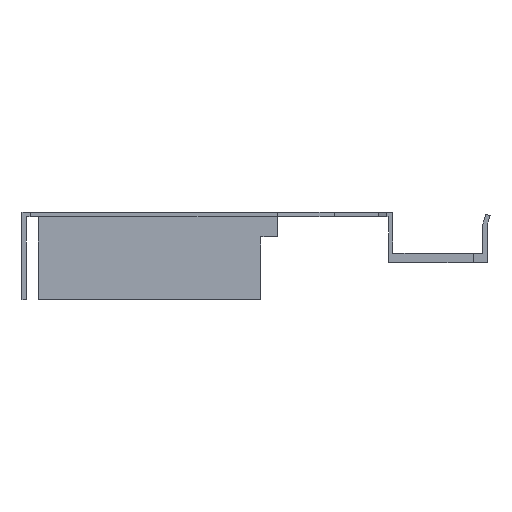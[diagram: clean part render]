
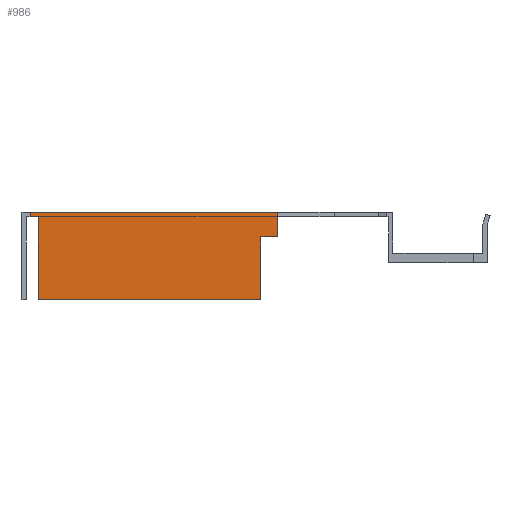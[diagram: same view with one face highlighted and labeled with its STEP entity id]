
A CAD part, left-side view. The second image highlights one B-rep face of the part: STEP entity #986.
In plain terms, the highlighted planar face has unit normal (-1, 0, 0).
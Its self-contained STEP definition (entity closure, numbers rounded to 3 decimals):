
#67 = FACE_OUTER_BOUND ( 'NONE', #190, .T. ) ;
#110 = VERTEX_POINT ( 'NONE', #1087 ) ;
#135 = VERTEX_POINT ( 'NONE', #1108 ) ;
#190 = EDGE_LOOP ( 'NONE', ( #919, #918, #917, #916, #928, #929, #930, #899 ) ) ;
#265 = LINE ( 'NONE', #1209, #270 ) ;
#270 = VECTOR ( 'NONE', #1212, 1000. ) ;
#367 = LINE ( 'NONE', #1326, #368 ) ;
#368 = VECTOR ( 'NONE', #1327, 1000. ) ;
#420 = LINE ( 'NONE', #1389, #422 ) ;
#422 = VECTOR ( 'NONE', #1390, 1000. ) ;
#452 = LINE ( 'NONE', #1417, #453 ) ;
#453 = VECTOR ( 'NONE', #1418, 1000. ) ;
#454 = LINE ( 'NONE', #1419, #455 ) ;
#455 = VECTOR ( 'NONE', #1420, 1000. ) ;
#458 = LINE ( 'NONE', #1423, #459 ) ;
#459 = VECTOR ( 'NONE', #1424, 1000. ) ;
#460 = LINE ( 'NONE', #1425, #461 ) ;
#461 = VECTOR ( 'NONE', #1426, 1000. ) ;
#462 = LINE ( 'NONE', #1427, #463 ) ;
#463 = VECTOR ( 'NONE', #1428, 1000. ) ;
#627 = EDGE_CURVE ( 'NONE', #135, #110, #265, .T. ) ;
#680 = EDGE_CURVE ( 'NONE', #1048, #1021, #367, .T. ) ;
#710 = EDGE_CURVE ( 'NONE', #1026, #1057, #420, .T. ) ;
#724 = EDGE_CURVE ( 'NONE', #1040, #1026, #452, .T. ) ;
#725 = EDGE_CURVE ( 'NONE', #110, #1036, #454, .T. ) ;
#727 = EDGE_CURVE ( 'NONE', #1048, #1040, #458, .T. ) ;
#728 = EDGE_CURVE ( 'NONE', #1021, #135, #460, .T. ) ;
#729 = EDGE_CURVE ( 'NONE', #1057, #1036, #462, .T. ) ;
#899 = ORIENTED_EDGE ( 'NONE', *, *, #627, .F. ) ;
#916 = ORIENTED_EDGE ( 'NONE', *, *, #724, .T. ) ;
#917 = ORIENTED_EDGE ( 'NONE', *, *, #727, .T. ) ;
#918 = ORIENTED_EDGE ( 'NONE', *, *, #680, .F. ) ;
#919 = ORIENTED_EDGE ( 'NONE', *, *, #728, .F. ) ;
#928 = ORIENTED_EDGE ( 'NONE', *, *, #710, .T. ) ;
#929 = ORIENTED_EDGE ( 'NONE', *, *, #729, .T. ) ;
#930 = ORIENTED_EDGE ( 'NONE', *, *, #725, .F. ) ;
#986 = ADVANCED_FACE ( 'NONE', ( #67 ), #1564, .T. ) ;
#1003 = AXIS2_PLACEMENT_3D ( 'NONE', #1567, #1573, #1574 ) ;
#1021 = VERTEX_POINT ( 'NONE', #1614 ) ;
#1026 = VERTEX_POINT ( 'NONE', #1620 ) ;
#1036 = VERTEX_POINT ( 'NONE', #1629 ) ;
#1040 = VERTEX_POINT ( 'NONE', #1633 ) ;
#1048 = VERTEX_POINT ( 'NONE', #1641 ) ;
#1057 = VERTEX_POINT ( 'NONE', #1650 ) ;
#1087 = CARTESIAN_POINT ( 'NONE',  ( -767., 21.2, 7.5 ) ) ;
#1108 = CARTESIAN_POINT ( 'NONE',  ( -767., 66.5, 7.5 ) ) ;
#1209 = CARTESIAN_POINT ( 'NONE',  ( -767., 0., 7.5 ) ) ;
#1212 = DIRECTION ( 'NONE',  ( 0., -1., 0. ) ) ;
#1326 = CARTESIAN_POINT ( 'NONE',  ( -767., 0.8, 6.7 ) ) ;
#1327 = DIRECTION ( 'NONE',  ( 0., 1., 0. ) ) ;
#1389 = CARTESIAN_POINT ( 'NONE',  ( -767., 24.2, -8.5 ) ) ;
#1390 = DIRECTION ( 'NONE',  ( 0., 0., 1. ) ) ;
#1417 = CARTESIAN_POINT ( 'NONE',  ( -767., 65., -8.5 ) ) ;
#1418 = DIRECTION ( 'NONE',  ( 0., -1., 0. ) ) ;
#1419 = CARTESIAN_POINT ( 'NONE',  ( -767., 21.2, 0. ) ) ;
#1420 = DIRECTION ( 'NONE',  ( 0., 0., -1. ) ) ;
#1423 = CARTESIAN_POINT ( 'NONE',  ( -767., 65., 7.5 ) ) ;
#1424 = DIRECTION ( 'NONE',  ( 0., 0., -1. ) ) ;
#1425 = CARTESIAN_POINT ( 'NONE',  ( -767., 66.5, 6.7 ) ) ;
#1426 = DIRECTION ( 'NONE',  ( 0., 0., 1. ) ) ;
#1427 = CARTESIAN_POINT ( 'NONE',  ( -767., 24.2, 3. ) ) ;
#1428 = DIRECTION ( 'NONE',  ( 0., -1., 0. ) ) ;
#1564 = PLANE ( 'NONE',  #1003 ) ;
#1567 = CARTESIAN_POINT ( 'NONE',  ( -767., -16.5, 0. ) ) ;
#1573 = DIRECTION ( 'NONE',  ( -1., 0., 0. ) ) ;
#1574 = DIRECTION ( 'NONE',  ( 0., 0., 1. ) ) ;
#1614 = CARTESIAN_POINT ( 'NONE',  ( -767., 66.5, 6.7 ) ) ;
#1620 = CARTESIAN_POINT ( 'NONE',  ( -767., 24.2, -8.5 ) ) ;
#1629 = CARTESIAN_POINT ( 'NONE',  ( -767., 21.2, 3. ) ) ;
#1633 = CARTESIAN_POINT ( 'NONE',  ( -767., 65., -8.5 ) ) ;
#1641 = CARTESIAN_POINT ( 'NONE',  ( -767., 65., 6.7 ) ) ;
#1650 = CARTESIAN_POINT ( 'NONE',  ( -767., 24.2, 3. ) ) ;
